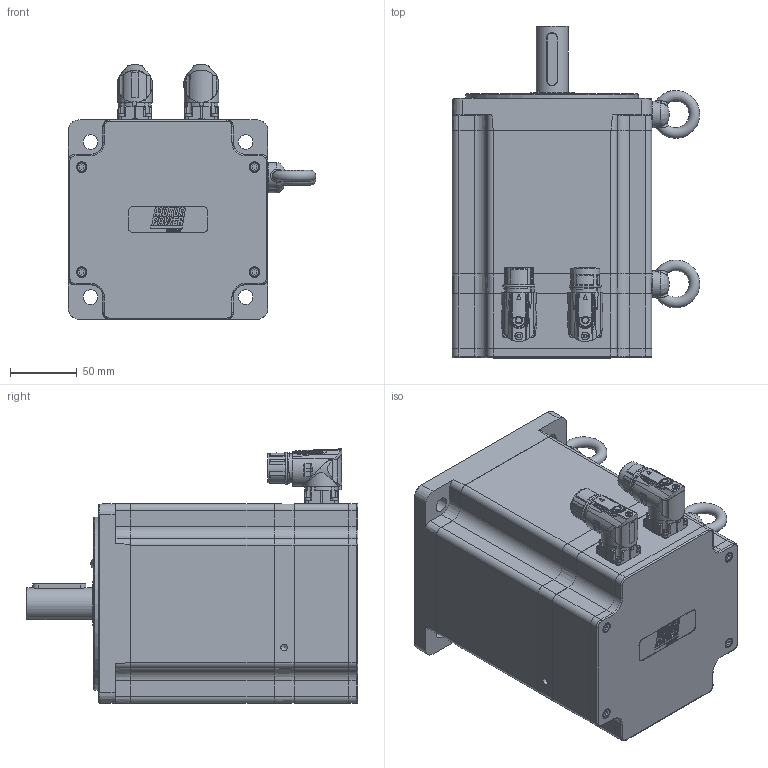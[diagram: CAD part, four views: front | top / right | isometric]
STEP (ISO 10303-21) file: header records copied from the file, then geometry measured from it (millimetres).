
FILE_DESCRIPTION(/* description */ ('Unknown'),/* implementation_level */ '2;1');
FILE_NAME(/* name */ 'Q0B753',/* time_stamp */ '2025-07-15T10:07:04+02:00',/* author */ ('Unknown'),/* organization */ ('Unknown'),/* preprocessor_version */ 'ST-DEVELOPER v19.4',/* originating_system */ 'Solid Edge',/* authorisation */ 'Unknown');
FILE_SCHEMA (('AUTOMOTIVE_DESIGN {1 0 10303 214 3 1 1}'));
Products named in the file (17): Q0B753; 003003199984; 003155002228; 005113000600; 005321000040; 005911000252; 005008000310_oa_0; Calotta TC4-150 single cable V7; 005911000218; 005911000185; 007117000456; 005911000223; Dispersore TC4 150 6A single cable; Coperchio campana TC4-150; 007117000454; 005119002043; 003251040619
Assembly tree (30 placements, depth 2):
  Q0B753
    003003199984
    003155002228
    005113000600
    005321000040  x2
    005911000252  x4
    005008000310_oa_0
    Calotta TC4-150 single cable V7
    005911000218  x4
    005911000185  x8
    007117000456
    005911000223
    Dispersore TC4 150 6A single cable
    Coperchio campana TC4-150
    007117000454
    005119002043
    003251040619
Bounding box: 185.96 x 249.5 x 191.5 mm (x, y, z)
Volume: 1764291.3 mm3; surface area: 466767.3 mm2
Topology: 31 solids, 31 shells, 2305 faces, 5739 edges, 3675 vertices
Faces by surface type: plane 998, cylinder 506, bspline 344, cone 275, torus 137, sphere 45
Full cylindrical faces by diameter (mm): 0.5 x1, 1 x21, 1.2 x17, 1.4 x4, 2 x4, 2.013 x8, 2.5 x8, 2.8 x4, 3 x12, 3.242 x12, 4 x4, 4.134 x20, 4.5 x10, 4.7 x8, 4.917 x6, 5 x7, 5.5 x10, 5.8 x1, 5.9 x2, 6 x2, 6.647 x2, 6.8 x1, 7 x4, 8 x8, 8.5 x5, 9 x4, 10 x5, 11 x4, 15.2 x1, 17.4 x3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
Entity records: 83925 total; most frequent: CARTESIAN_POINT 23951, ORIENTED_EDGE 9438, DIRECTION 8614, EDGE_CURVE 4719, AXIS2_PLACEMENT_3D 3317, VERTEX_POINT 3262, FACE_BOUND 2803, EDGE_LOOP 2777
